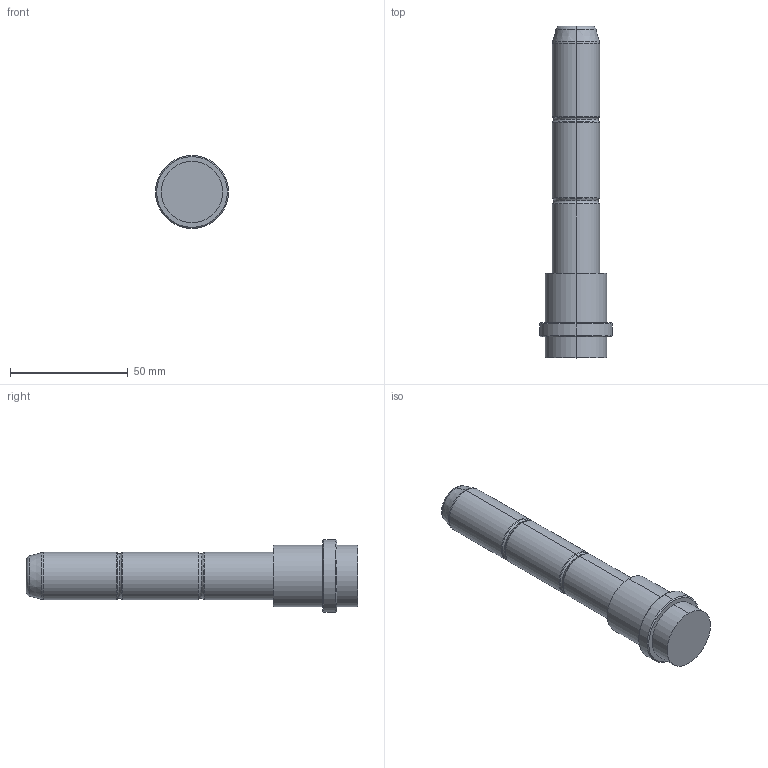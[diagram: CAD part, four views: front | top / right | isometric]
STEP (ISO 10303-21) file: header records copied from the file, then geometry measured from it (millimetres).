
FILE_DESCRIPTION (( 'STEP AP214' ), '1' );
FILE_NAME ('BR00 20x27x105.STEP', '2019-05-15T09:37:43', ( 'August' ), ( '' ), 'SwSTEP 2.0', 'SolidWorks 2018', '' );
FILE_SCHEMA (( 'AUTOMOTIVE_DESIGN' ));
Length unit declared in the file: millimetre
Products named in the file (1): BR00 20x27x105
Bounding box: 31 x 141 x 31 mm (x, y, z)
Volume: 52899.1 mm3; surface area: 10961 mm2
Topology: 1 solids, 1 shells, 43 faces, 84 edges, 46 vertices
Faces by surface type: torus 20, cylinder 12, cone 6, plane 5
Entity records: 1138 total; most frequent: DIRECTION 238, CARTESIAN_POINT 174, ORIENTED_EDGE 168, AXIS2_PLACEMENT_3D 110, EDGE_CURVE 84, CIRCLE 66, EDGE_LOOP 46, VERTEX_POINT 46
